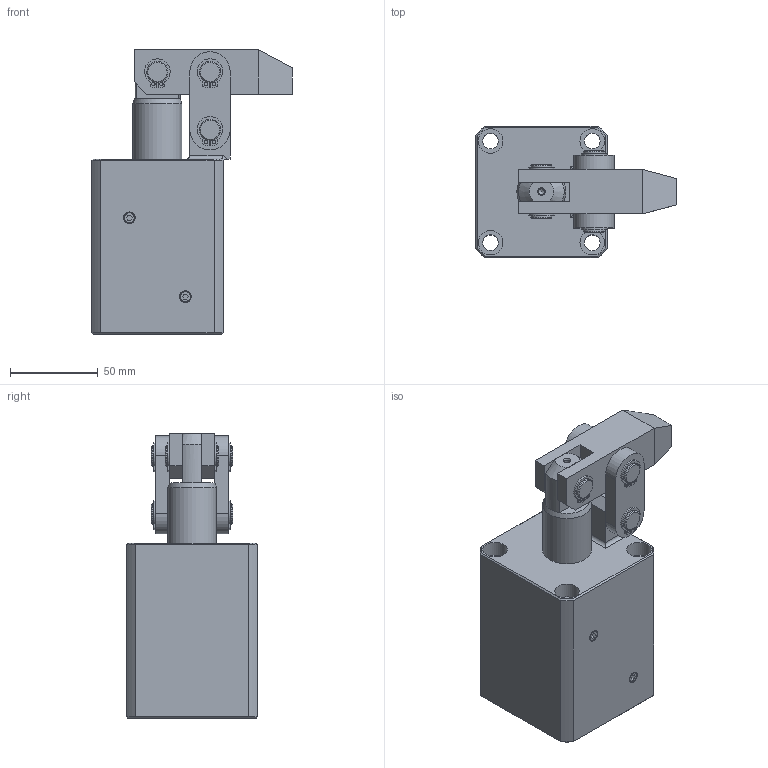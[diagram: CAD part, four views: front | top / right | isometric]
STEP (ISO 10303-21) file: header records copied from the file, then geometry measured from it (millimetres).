
FILE_DESCRIPTION(/* description */ ('Unknown'),/* implementation_level */ '2;1');
FILE_NAME(/* name */ 'HLC-M50-A',/* time_stamp */ '2022-11-23T04:17:48+08:00',/* author */ ('Unknown'),/* organization */ ('Unknown'),/* preprocessor_version */ 'ST-DEVELOPER v16.7',/* originating_system */ 'DEX',/* authorisation */ $);
FILE_SCHEMA (('AUTOMOTIVE_DESIGN {1 0 10303 214 3 1 1}'));
Length unit declared in the file: millimetre
Products named in the file (8): HLC-M50-A; HLC-M50-CYLINDER; HLC-5002-AXLE CENTRE; HLC-50-A; HLC-50-PINµuonRefs; HLC-50-PINªø; HLC-50-墊; HLC-50-C扣0
Assembly tree (14 placements, depth 2):
  HLC-M50-A
    HLC-M50-CYLINDER
    HLC-5002-AXLE CENTRE
    HLC-50-A
    HLC-50-PINµuonRefs
    HLC-50-PINªø  x2
    HLC-50-墊  x2
    HLC-50-C扣0  x6
Bounding box: 114.5 x 75 x 162.4 mm (x, y, z)
Volume: 571189.9 mm3; surface area: 108348.3 mm2
Topology: 14 solids, 14 shells, 288 faces, 668 edges, 436 vertices
Faces by surface type: plane 134, cylinder 123, cone 29, torus 2
Full cylindrical faces by diameter (mm): 2 x12, 3.2 x1, 4.1 x2, 5 x2, 9 x4, 11 x2, 11.3 x6, 12 x18, 14 x4, 28 x2, 49.4 x1, 50 x1
Entity records: 5067 total; most frequent: DIRECTION 872, CARTESIAN_POINT 863, ORIENTED_EDGE 680, AXIS2_PLACEMENT_3D 352, EDGE_CURVE 340, FACE_BOUND 297, EDGE_LOOP 294, VERTEX_POINT 251
